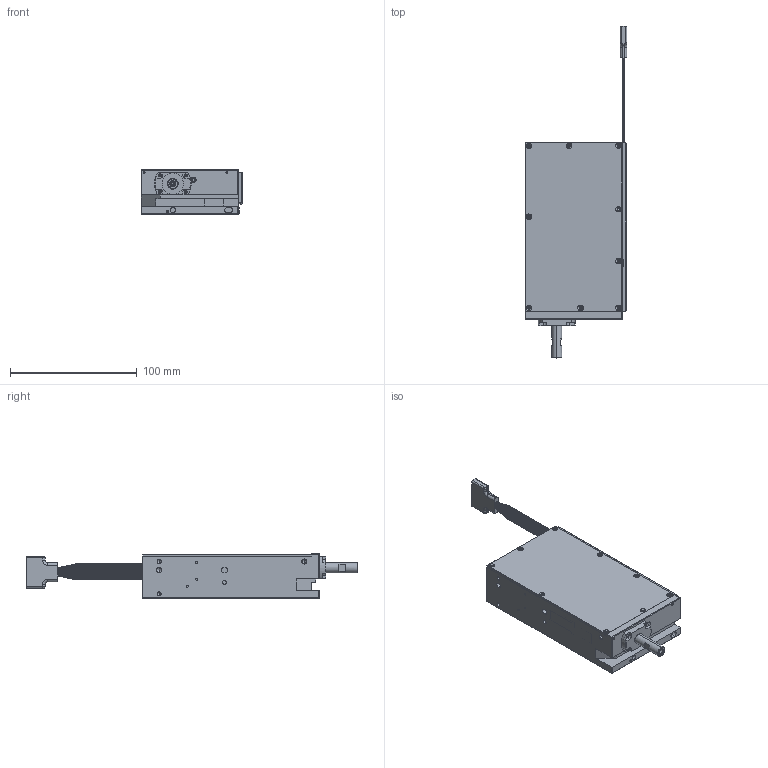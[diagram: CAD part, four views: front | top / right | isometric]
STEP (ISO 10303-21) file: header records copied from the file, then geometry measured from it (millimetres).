
FILE_DESCRIPTION((''),'2;1');
FILE_NAME('LAR31-030-5_1.stp','2013-09-06T16:45:38',(''),(''),'Mechanical Desktop 2008','Mechanical Desktop 2008',', , ');
FILE_SCHEMA(('CONFIG_CONTROL_DESIGN'));
Length unit declared in the file: millimetre
Products named in the file (14): DRAWING3; LAR31-STD-CNN; PH2-STD-RIB; 220794-01_A; 18557-01_A; 33508-STD_1; 16581-02_1; 23624-01_A; 24077-01_A; FLEX-ENC-1; BUMPER; 48025-00; MLFG14r90; 11576-02_A
Assembly tree (14 placements, depth 3):
  DRAWING3
    LAR31-STD-CNN
    PH2-STD-RIB  x2
    220794-01_A
    18557-01_A
    33508-STD_1
      16581-02_1
    23624-01_A
    24077-01_A
    FLEX-ENC-1
    BUMPER
    48025-00
    MLFG14r90
    11576-02_A
Bounding box: 80.22 x 262.24 x 34.9 mm (x, y, z)
Volume: 134430.1 mm3; surface area: 110958.4 mm2
Topology: 41 solids, 41 shells, 1177 faces, 2785 edges, 1547 vertices
Faces by surface type: bspline 423, plane 375, cylinder 255, torus 90, cone 28, sphere 6
Entity records: 35830 total; most frequent: CARTESIAN_POINT 12634, ORIENTED_EDGE 4878, DIRECTION 4730, EDGE_CURVE 2439, AXIS2_PLACEMENT_3D 1712, VERTEX_POINT 1459, VECTOR 1306, LINE 1306
